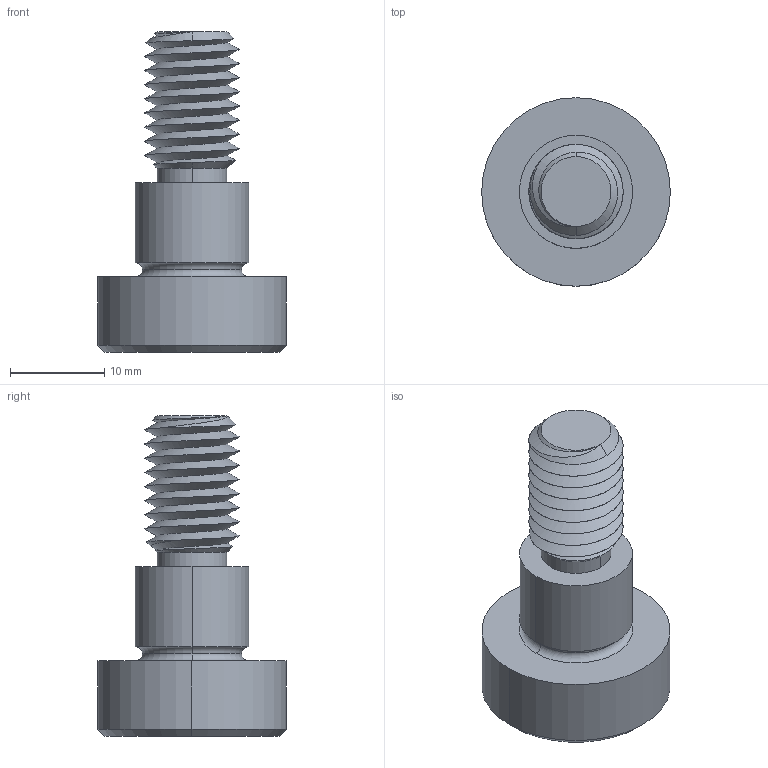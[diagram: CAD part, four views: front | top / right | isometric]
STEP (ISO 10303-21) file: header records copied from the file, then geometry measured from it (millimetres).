
FILE_DESCRIPTION (( 'STEP AP203' ), '1' );
FILE_NAME ('P0130.120-010-B2.step', '2021-11-09T22:01:17', ( '' ), ( '' ), 'SwSTEP 2.0', 'SolidWorks 2019', '' );
FILE_SCHEMA (( 'CONFIG_CONTROL_DESIGN' ));
Length unit declared in the file: millimetre
Products named in the file (1): P0130.120-010-B2
Bounding box: 20 x 20 x 34 mm (x, y, z)
Volume: 4309.9 mm3; surface area: 2434.2 mm2
Topology: 1 solids, 1 shells, 60 faces, 142 edges, 85 vertices
Faces by surface type: cylinder 23, plane 16, cone 15, torus 4, bspline 2
Entity records: 3534 total; most frequent: CARTESIAN_POINT 2187, ORIENTED_EDGE 280, DIRECTION 247, EDGE_CURVE 140, AXIS2_PLACEMENT_3D 99, VERTEX_POINT 85, EDGE_LOOP 63, ADVANCED_FACE 60
